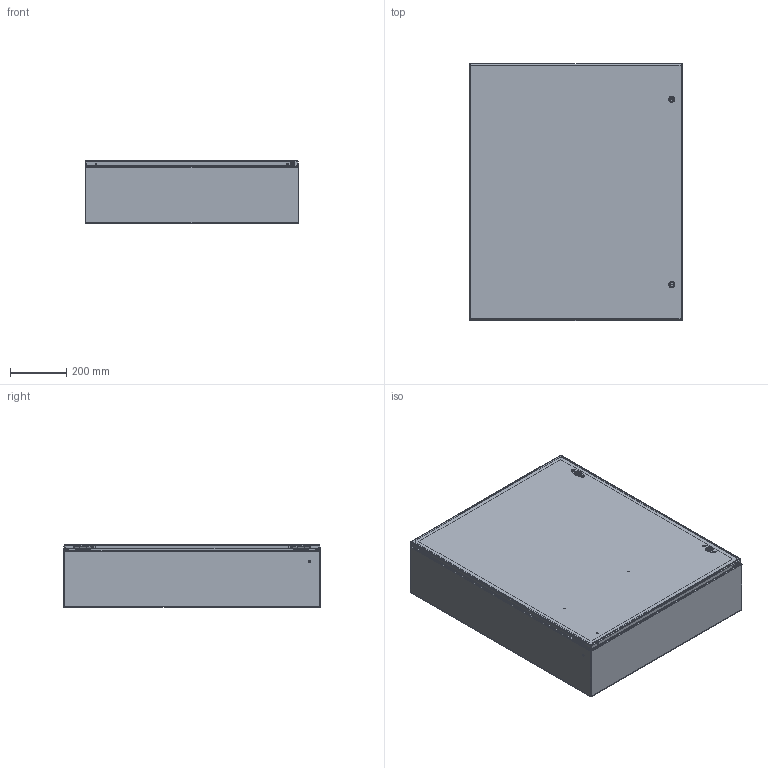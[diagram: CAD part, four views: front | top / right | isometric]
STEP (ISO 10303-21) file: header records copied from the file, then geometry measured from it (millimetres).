
FILE_DESCRIPTION (( 'STEP AP203' ), '1' );
FILE_NAME ('csd36308.STEP', '2012-06-11T19:20:05', ( 'User' ), ( 'Pentair Inc' ), 'SwSTEP 2.0', 'SolidWorks 2010', '' );
FILE_SCHEMA (( 'CONFIG_CONTROL_DESIGN' ));
Length unit declared in the file: inch
Products named in the file (27): 23271001_After Weld; 87937945_assy; 87937985_weldment; 87936144; 99401225; 87931362_87931362; 64101001; 64201001; 87541994_Installed Height; 87541995; 64202001; 64210001; 64203001; 87927840_87927840; 87932903; 64138001; 87938010; 87543027; 89076399; 89076193; 89056623; 87929507; 87929767; 87929769_Installed on Pin; csd36308; 87951355; 87755768_default
Assembly tree (45 placements, depth 4):
  csd36308
    89076399  x2
      89076193
      89056623
    87543027  x2
    87929507  x2
      87929769_Installed on Pin
      87929767
    87951355
      23271001_After Weld  x6
      87755768_default
      99401225
    87937945_assy
      87932903  x4
      64138001  x2
      87938010
      64101001  x2
        64201001
        87927840_87927840
        87541994_Installed Height
        64202001
        64210001
        87541995
        64203001
      87937985_weldment
        87931362_87931362  x6
        87936144
        99401225
Bounding box: 762 x 915.17 x 223.9 mm (x, y, z)
Volume: 4302443.2 mm3; surface area: 4595111.5 mm2
Topology: 49 solids, 49 shells, 2383 faces, 5862 edges, 3536 vertices
Faces by surface type: plane 867, cylinder 716, bspline 512, torus 140, cone 140, sphere 8
Entity records: 47001 total; most frequent: CARTESIAN_POINT 16405, ORIENTED_EDGE 5966, DIRECTION 5229, EDGE_CURVE 2983, AXIS2_PLACEMENT_3D 1870, VERTEX_POINT 1830, VECTOR 1489, LINE 1489
